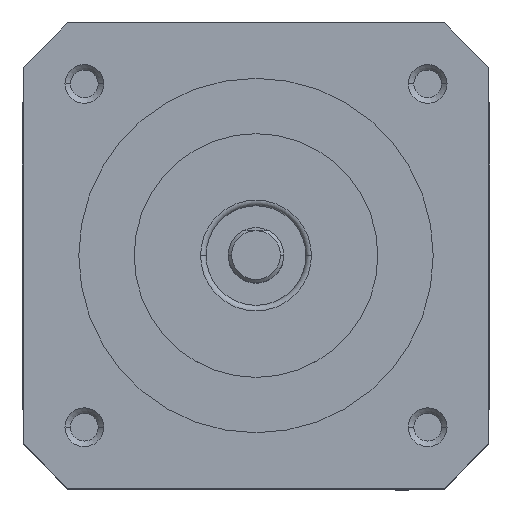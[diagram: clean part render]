
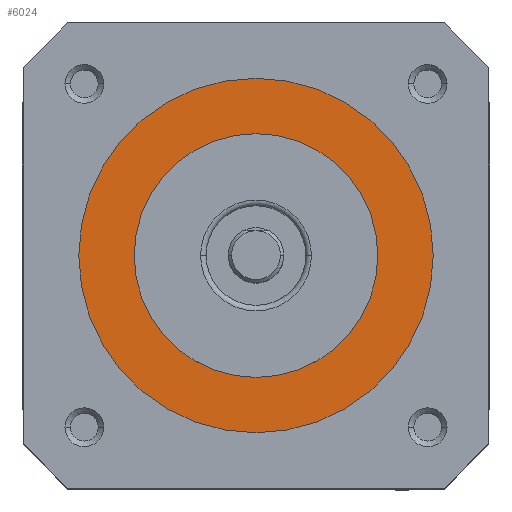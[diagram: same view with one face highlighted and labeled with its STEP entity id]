
A CAD part, top view. The second image highlights one B-rep face of the part: STEP entity #6024.
In plain terms, the highlighted planar face has unit normal (0, 0, 1).
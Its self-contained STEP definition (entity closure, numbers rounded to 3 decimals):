
#35 = EDGE_CURVE ( 'NONE', #5083, #5138, #4921, .T. ) ;
#97 = EDGE_CURVE ( 'NONE', #5239, #5133, #4988, .T. ) ;
#1377 = CARTESIAN_POINT ( 'NONE',  ( 16., 0., 7.7 ) ) ;
#1404 = CARTESIAN_POINT ( 'NONE',  ( 11., 0., 7.7 ) ) ;
#1406 = CARTESIAN_POINT ( 'NONE',  ( -16., 0., 7.7 ) ) ;
#1447 = CARTESIAN_POINT ( 'NONE',  ( -11., 0., 7.7 ) ) ;
#2928 = FACE_BOUND ( 'NONE', #5594, .T. ) ;
#2929 = FACE_OUTER_BOUND ( 'NONE', #5324, .T. ) ;
#3051 = CARTESIAN_POINT ( 'NONE',  ( 0., 0., 7.7 ) ) ;
#3052 = DIRECTION ( 'NONE',  ( 0., 0., 1. ) ) ;
#3053 = DIRECTION ( 'NONE',  ( 1., 0., 0. ) ) ;
#3384 = CARTESIAN_POINT ( 'NONE',  ( 0., 0., 7.7 ) ) ;
#3385 = DIRECTION ( 'NONE',  ( 0., 0., 1. ) ) ;
#3386 = DIRECTION ( 'NONE',  ( 1., 0., 0. ) ) ;
#3647 = CIRCLE ( 'NONE', #3649, 16. ) ;
#3649 = AXIS2_PLACEMENT_3D ( 'NONE', #4339, #4340, #4341 ) ;
#3749 = AXIS2_PLACEMENT_3D ( 'NONE', #3948, #3949, #3950 ) ;
#3947 = PLANE ( 'NONE',  #3749 ) ;
#3948 = CARTESIAN_POINT ( 'NONE',  ( 0., 0., 7.7 ) ) ;
#3949 = DIRECTION ( 'NONE',  ( 0., 0., 1. ) ) ;
#3950 = DIRECTION ( 'NONE',  ( 1., 0., 0. ) ) ;
#4339 = CARTESIAN_POINT ( 'NONE',  ( 0., 0., 7.7 ) ) ;
#4340 = DIRECTION ( 'NONE',  ( 0., 0., 1. ) ) ;
#4341 = DIRECTION ( 'NONE',  ( 1., 0., 0. ) ) ;
#4517 = CARTESIAN_POINT ( 'NONE',  ( 0., 0., 7.7 ) ) ;
#4518 = DIRECTION ( 'NONE',  ( 0., 0., 1. ) ) ;
#4519 = DIRECTION ( 'NONE',  ( 1., 0., 0. ) ) ;
#4742 = CIRCLE ( 'NONE', #4749, 11. ) ;
#4749 = AXIS2_PLACEMENT_3D ( 'NONE', #3384, #3385, #3386 ) ;
#4921 = CIRCLE ( 'NONE', #4924, 16. ) ;
#4924 = AXIS2_PLACEMENT_3D ( 'NONE', #3051, #3052, #3053 ) ;
#4988 = CIRCLE ( 'NONE', #4996, 11. ) ;
#4996 = AXIS2_PLACEMENT_3D ( 'NONE', #4517, #4518, #4519 ) ;
#5083 = VERTEX_POINT ( 'NONE', #1377 ) ;
#5133 = VERTEX_POINT ( 'NONE', #1404 ) ;
#5138 = VERTEX_POINT ( 'NONE', #1406 ) ;
#5239 = VERTEX_POINT ( 'NONE', #1447 ) ;
#5324 = EDGE_LOOP ( 'NONE', ( #5729, #5734 ) ) ;
#5594 = EDGE_LOOP ( 'NONE', ( #5731, #5733 ) ) ;
#5729 = ORIENTED_EDGE ( 'NONE', *, *, #35, .T. ) ;
#5731 = ORIENTED_EDGE ( 'NONE', *, *, #97, .F. ) ;
#5733 = ORIENTED_EDGE ( 'NONE', *, *, #5857, .F. ) ;
#5734 = ORIENTED_EDGE ( 'NONE', *, *, #5952, .T. ) ;
#5857 = EDGE_CURVE ( 'NONE', #5133, #5239, #4742, .T. ) ;
#5952 = EDGE_CURVE ( 'NONE', #5138, #5083, #3647, .T. ) ;
#6024 = ADVANCED_FACE ( 'NONE', ( #2928, #2929 ), #3947, .T. ) ;
